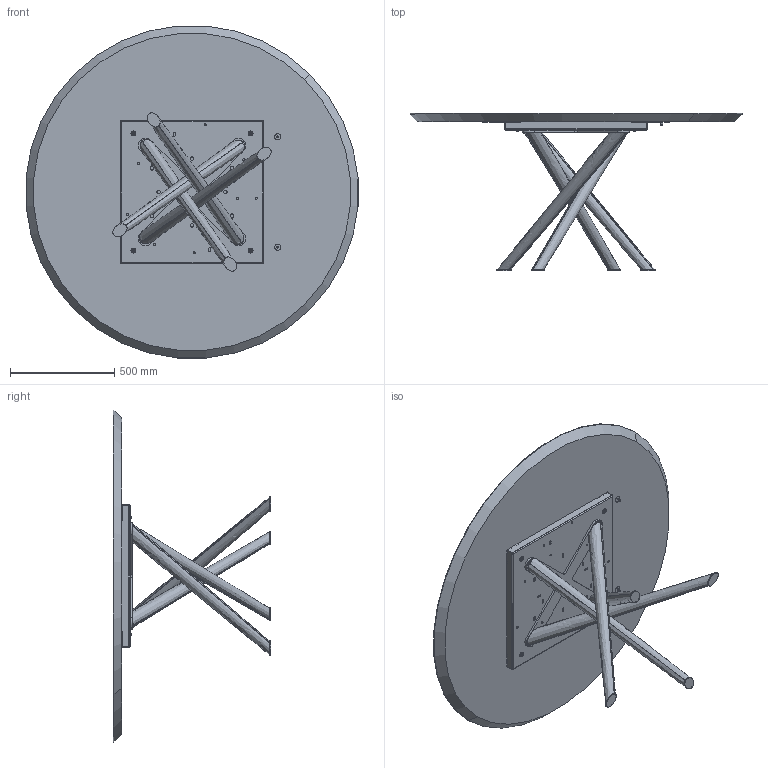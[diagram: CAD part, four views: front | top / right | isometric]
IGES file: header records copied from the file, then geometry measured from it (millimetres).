
Start section: SolidWorks IGES file using analytic representation for surfaces
Global section: file name: Y:\eforma\TECNICO\SOLIDWORKS\E-FORMA\1-TAVOLI\BALY\02 parts\BA08W.IGS; native system: SolidWorks 2022; preprocessor: SolidWorks 2022; author: eforma.tech; date: 240808.084225; units: millimetre
Bounding box: 1593.91 x 755 x 1593.91 mm (x, y, z)
Volume: 81740166.5 mm3; surface area: 6943033.1 mm2
Topology: 43 solids, 43 shells, 1103 faces, 2645 edges, 1612 vertices
Faces by surface type: revolution 649, plane 446, bspline 8
